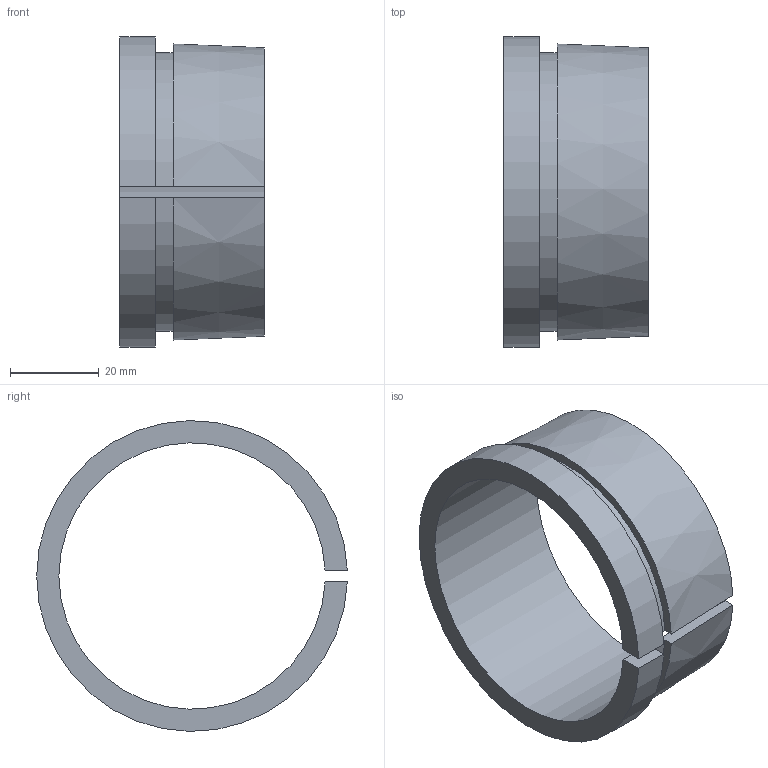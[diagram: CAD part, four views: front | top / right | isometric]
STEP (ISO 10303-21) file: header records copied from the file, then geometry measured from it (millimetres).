
FILE_DESCRIPTION(/* description */ (''),/* implementation_level */ '2;1');
FILE_NAME(/* name */ 'AHX213.stp',/* time_stamp */ '2024-07-24T13:29:15+02:00',/* author */ ('OUPIONTEKM'),/* organization */ (''),/* preprocessor_version */ 'ST-DEVELOPER v20',/* originating_system */ 'Autodesk Inventor 2025',/* authorisation */ '');
FILE_SCHEMA (('AUTOMOTIVE_DESIGN { 1 0 10303 214 3 1 1 }'));
Length unit declared in the file: millimetre
Products named in the file (1): AH213
Bounding box: 32.5 x 69.97 x 69.99 mm (x, y, z)
Volume: 20797.4 mm3; surface area: 15599.3 mm2
Topology: 1 solids, 1 shells, 10 faces, 24 edges, 16 vertices
Faces by surface type: plane 6, cylinder 3, cone 1
Entity records: 339 total; most frequent: DIRECTION 54, CARTESIAN_POINT 51, ORIENTED_EDGE 48, EDGE_CURVE 24, AXIS2_PLACEMENT_3D 19, LINE 16, VECTOR 16, VERTEX_POINT 16
